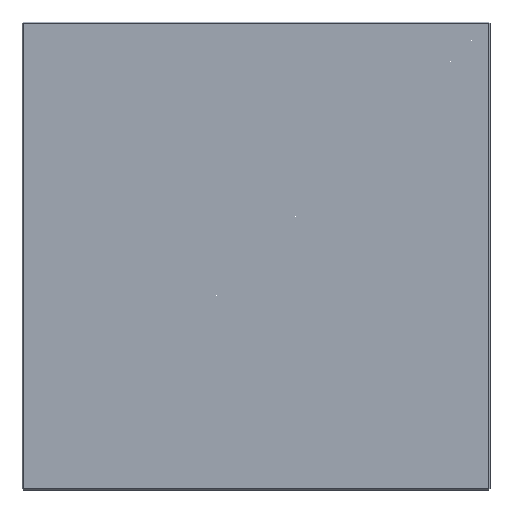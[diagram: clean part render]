
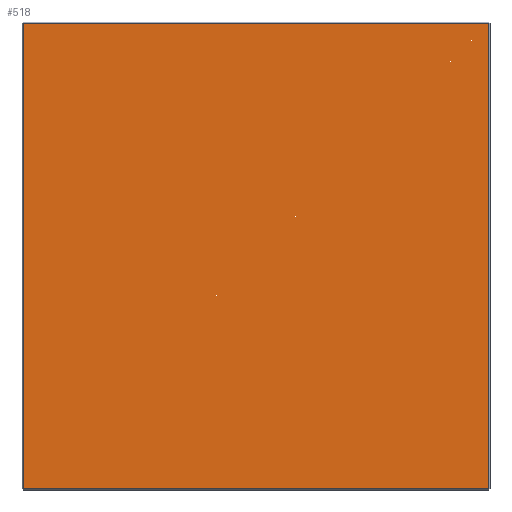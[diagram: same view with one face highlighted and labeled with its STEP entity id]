
A CAD part, front view. The second image highlights one B-rep face of the part: STEP entity #518.
In plain terms, the highlighted planar face has unit normal (0, -1, 0).
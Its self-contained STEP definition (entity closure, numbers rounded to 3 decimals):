
#14 = VERTEX_POINT ( 'NONE', #330 ) ;
#16 = VECTOR ( 'NONE', #588, 1000. ) ;
#28 = ORIENTED_EDGE ( 'NONE', *, *, #381, .T. ) ;
#59 = VECTOR ( 'NONE', #392, 1000. ) ;
#62 = ORIENTED_EDGE ( 'NONE', *, *, #394, .T. ) ;
#63 = ORIENTED_EDGE ( 'NONE', *, *, #388, .T. ) ;
#66 = LINE ( 'NONE', #529, #59 ) ;
#68 = LINE ( 'NONE', #594, #16 ) ;
#76 = VERTEX_POINT ( 'NONE', #199 ) ;
#96 = EDGE_LOOP ( 'NONE', ( #28, #62, #63, #363 ) ) ;
#180 = VECTOR ( 'NONE', #597, 1000. ) ;
#187 = LINE ( 'NONE', #505, #180 ) ;
#199 = CARTESIAN_POINT ( 'NONE',  ( -222., 0., -222. ) ) ;
#223 = AXIS2_PLACEMENT_3D ( 'NONE', #599, #329, #280 ) ;
#238 = VERTEX_POINT ( 'NONE', #393 ) ;
#280 = DIRECTION ( 'NONE',  ( 0., 0., 1. ) ) ;
#284 = VERTEX_POINT ( 'NONE', #477 ) ;
#286 = EDGE_CURVE ( 'NONE', #76, #238, #565, .T. ) ;
#329 = DIRECTION ( 'NONE',  ( 0., 1., 0. ) ) ;
#330 = CARTESIAN_POINT ( 'NONE',  ( -222., 0., 222. ) ) ;
#363 = ORIENTED_EDGE ( 'NONE', *, *, #286, .T. ) ;
#381 = EDGE_CURVE ( 'NONE', #238, #284, #68, .T. ) ;
#388 = EDGE_CURVE ( 'NONE', #14, #76, #187, .T. ) ;
#392 = DIRECTION ( 'NONE',  ( -1., 0., 0. ) ) ;
#393 = CARTESIAN_POINT ( 'NONE',  ( 222., 0., -222. ) ) ;
#394 = EDGE_CURVE ( 'NONE', #284, #14, #66, .T. ) ;
#408 = PLANE ( 'NONE',  #223 ) ;
#414 = CARTESIAN_POINT ( 'NONE',  ( 0., 0., -222. ) ) ;
#477 = CARTESIAN_POINT ( 'NONE',  ( 222., 0., 222. ) ) ;
#500 = FACE_OUTER_BOUND ( 'NONE', #96, .T. ) ;
#505 = CARTESIAN_POINT ( 'NONE',  ( -222., 0., 0. ) ) ;
#518 = ADVANCED_FACE ( 'NONE', ( #500 ), #408, .F. ) ;
#529 = CARTESIAN_POINT ( 'NONE',  ( 0., 0., 222. ) ) ;
#549 = VECTOR ( 'NONE', #583, 1000. ) ;
#565 = LINE ( 'NONE', #414, #549 ) ;
#583 = DIRECTION ( 'NONE',  ( 1., 0., 0. ) ) ;
#588 = DIRECTION ( 'NONE',  ( 0., 0., 1. ) ) ;
#594 = CARTESIAN_POINT ( 'NONE',  ( 222., 0., 0. ) ) ;
#597 = DIRECTION ( 'NONE',  ( 0., 0., -1. ) ) ;
#599 = CARTESIAN_POINT ( 'NONE',  ( 0., 0., 0. ) ) ;
